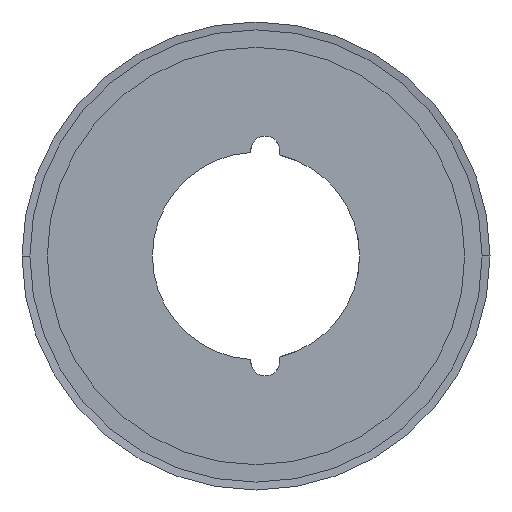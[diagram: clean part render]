
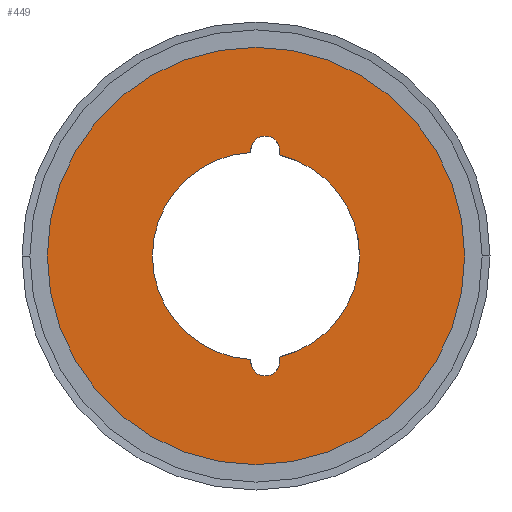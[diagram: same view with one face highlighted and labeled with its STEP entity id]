
A CAD part, left-side view. The second image highlights one B-rep face of the part: STEP entity #449.
In plain terms, the highlighted planar face has unit normal (-1, 0, 0).
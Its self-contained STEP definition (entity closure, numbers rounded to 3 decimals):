
#449 = ADVANCED_FACE( '', ( #1205, #1206 ), #1207, .T. );
#1205 = FACE_BOUND( '', #1962, .T. );
#1206 = FACE_OUTER_BOUND( '', #1963, .T. );
#1207 = PLANE( '', #1964 );
#1962 = EDGE_LOOP( '', ( #5263, #5264, #5265, #5266, #5267, #5268, #5269, #5270, #5271, #5272 ) );
#1963 = EDGE_LOOP( '', ( #5273, #5274 ) );
#1964 = AXIS2_PLACEMENT_3D( '', #5275, #5276, #5277 );
#5263 = ORIENTED_EDGE( '', *, *, #5339, .T. );
#5264 = ORIENTED_EDGE( '', *, *, #5342, .T. );
#5265 = ORIENTED_EDGE( '', *, *, #5341, .T. );
#5266 = ORIENTED_EDGE( '', *, *, #5334, .F. );
#5267 = ORIENTED_EDGE( '', *, *, #5346, .F. );
#5268 = ORIENTED_EDGE( '', *, *, #5349, .T. );
#5269 = ORIENTED_EDGE( '', *, *, #5325, .T. );
#5270 = ORIENTED_EDGE( '', *, *, #5320, .T. );
#5271 = ORIENTED_EDGE( '', *, *, #5347, .F. );
#5272 = ORIENTED_EDGE( '', *, *, #5332, .F. );
#5273 = ORIENTED_EDGE( '', *, *, #5281, .T. );
#5274 = ORIENTED_EDGE( '', *, *, #6371, .T. );
#5275 = CARTESIAN_POINT( '', ( 0., 49.381, 0. ) );
#5276 = DIRECTION( '', ( -1., 0., 0. ) );
#5277 = DIRECTION( '', ( 0., 1., 0. ) );
#5281 = EDGE_CURVE( '', #6373, #6377, #6379, .T. );
#5320 = EDGE_CURVE( '', #6445, #6448, #6450, .T. );
#5325 = EDGE_CURVE( '', #6452, #6445, #6459, .T. );
#5332 = EDGE_CURVE( '', #6470, #6460, #6472, .T. );
#5334 = EDGE_CURVE( '', #6473, #6476, #6477, .T. );
#5339 = EDGE_CURVE( '', #6470, #6483, #6485, .T. );
#5341 = EDGE_CURVE( '', #6486, #6476, #6488, .T. );
#5342 = EDGE_CURVE( '', #6483, #6486, #6489, .T. );
#5346 = EDGE_CURVE( '', #6492, #6473, #6494, .T. );
#5347 = EDGE_CURVE( '', #6460, #6448, #6495, .T. );
#5349 = EDGE_CURVE( '', #6492, #6452, #6497, .T. );
#6371 = EDGE_CURVE( '', #6377, #6373, #8191, .T. );
#6373 = VERTEX_POINT( '', #8193 );
#6377 = VERTEX_POINT( '', #8198 );
#6379 = CIRCLE( '', #8201, 66. );
#6445 = VERTEX_POINT( '', #8327 );
#6448 = VERTEX_POINT( '', #8331 );
#6450 = CIRCLE( '', #8340, 4.6 );
#6452 = VERTEX_POINT( '', #8342 );
#6459 = CIRCLE( '', #8364, 4.6 );
#6460 = VERTEX_POINT( '', #8365 );
#6470 = VERTEX_POINT( '', #8425 );
#6472 = CIRCLE( '', #8434, 32.762 );
#6473 = VERTEX_POINT( '', #8435 );
#6476 = VERTEX_POINT( '', #8439 );
#6477 = CIRCLE( '', #8440, 32.762 );
#6483 = VERTEX_POINT( '', #8460 );
#6485 = CIRCLE( '', #8463, 4.6 );
#6486 = VERTEX_POINT( '', #8464 );
#6488 = CIRCLE( '', #8467, 4.6 );
#6489 = CIRCLE( '', #8468, 4.6 );
#6492 = VERTEX_POINT( '', #8471 );
#6494 = CIRCLE( '', #8480, 32.762 );
#6495 = CIRCLE( '', #8481, 32.762 );
#6497 = CIRCLE( '', #8483, 4.6 );
#8191 = CIRCLE( '', #10737, 66. );
#8193 = CARTESIAN_POINT( '', ( 0., 66., 0. ) );
#8198 = CARTESIAN_POINT( '', ( 0., -66., 0. ) );
#8201 = AXIS2_PLACEMENT_3D( '', #10743, #10744, #10745 );
#8327 = CARTESIAN_POINT( '', ( 0., 1.694, -33.34 ) );
#8331 = CARTESIAN_POINT( '', ( 0., 1.652, -32.721 ) );
#8340 = AXIS2_PLACEMENT_3D( '', #10813, #10814, #10815 );
#8342 = CARTESIAN_POINT( '', ( 0., -7.506, -33.34 ) );
#8364 = AXIS2_PLACEMENT_3D( '', #10820, #10821, #10822 );
#8365 = CARTESIAN_POINT( '', ( 0., 32.762, 0. ) );
#8425 = CARTESIAN_POINT( '', ( 0., 1.652, 32.721 ) );
#8434 = AXIS2_PLACEMENT_3D( '', #10827, #10828, #10829 );
#8435 = CARTESIAN_POINT( '', ( 0., -32.762, 0. ) );
#8439 = CARTESIAN_POINT( '', ( 0., -7.288, 31.941 ) );
#8440 = AXIS2_PLACEMENT_3D( '', #10831, #10832, #10833 );
#8460 = CARTESIAN_POINT( '', ( 0., 1.694, 33.34 ) );
#8463 = AXIS2_PLACEMENT_3D( '', #10838, #10839, #10840 );
#8464 = CARTESIAN_POINT( '', ( 0., -7.506, 33.34 ) );
#8467 = AXIS2_PLACEMENT_3D( '', #10842, #10843, #10844 );
#8468 = AXIS2_PLACEMENT_3D( '', #10845, #10846, #10847 );
#8471 = CARTESIAN_POINT( '', ( 0., -7.288, -31.941 ) );
#8480 = AXIS2_PLACEMENT_3D( '', #10854, #10855, #10856 );
#8481 = AXIS2_PLACEMENT_3D( '', #10857, #10858, #10859 );
#8483 = AXIS2_PLACEMENT_3D( '', #10863, #10864, #10865 );
#10737 = AXIS2_PLACEMENT_3D( '', #12809, #12810, #12811 );
#10743 = CARTESIAN_POINT( '', ( 0., 0., 0. ) );
#10744 = DIRECTION( '', ( -1., 0., 0. ) );
#10745 = DIRECTION( '', ( 0., 1., 0. ) );
#10813 = CARTESIAN_POINT( '', ( 0., -2.906, -33.34 ) );
#10814 = DIRECTION( '', ( 1., 0., 0. ) );
#10815 = DIRECTION( '', ( 0., -1., 0. ) );
#10820 = CARTESIAN_POINT( '', ( 0., -2.906, -33.34 ) );
#10821 = DIRECTION( '', ( 1., 0., 0. ) );
#10822 = DIRECTION( '', ( 0., -1., 0. ) );
#10827 = CARTESIAN_POINT( '', ( 0., 0., 0. ) );
#10828 = DIRECTION( '', ( -1., 0., 0. ) );
#10829 = DIRECTION( '', ( 0., 1., 0. ) );
#10831 = CARTESIAN_POINT( '', ( 0., 0., 0. ) );
#10832 = DIRECTION( '', ( -1., 0., 0. ) );
#10833 = DIRECTION( '', ( 0., 1., 0. ) );
#10838 = CARTESIAN_POINT( '', ( 0., -2.906, 33.34 ) );
#10839 = DIRECTION( '', ( 1., 0., 0. ) );
#10840 = DIRECTION( '', ( 0., -1., 0. ) );
#10842 = CARTESIAN_POINT( '', ( 0., -2.906, 33.34 ) );
#10843 = DIRECTION( '', ( 1., 0., 0. ) );
#10844 = DIRECTION( '', ( 0., -1., 0. ) );
#10845 = CARTESIAN_POINT( '', ( 0., -2.906, 33.34 ) );
#10846 = DIRECTION( '', ( 1., 0., 0. ) );
#10847 = DIRECTION( '', ( 0., -1., 0. ) );
#10854 = CARTESIAN_POINT( '', ( 0., 0., 0. ) );
#10855 = DIRECTION( '', ( -1., 0., 0. ) );
#10856 = DIRECTION( '', ( 0., 1., 0. ) );
#10857 = CARTESIAN_POINT( '', ( 0., 0., 0. ) );
#10858 = DIRECTION( '', ( -1., 0., 0. ) );
#10859 = DIRECTION( '', ( 0., 1., 0. ) );
#10863 = CARTESIAN_POINT( '', ( 0., -2.906, -33.34 ) );
#10864 = DIRECTION( '', ( 1., 0., 0. ) );
#10865 = DIRECTION( '', ( 0., -1., 0. ) );
#12809 = CARTESIAN_POINT( '', ( 0., 0., 0. ) );
#12810 = DIRECTION( '', ( -1., 0., 0. ) );
#12811 = DIRECTION( '', ( 0., 1., 0. ) );
